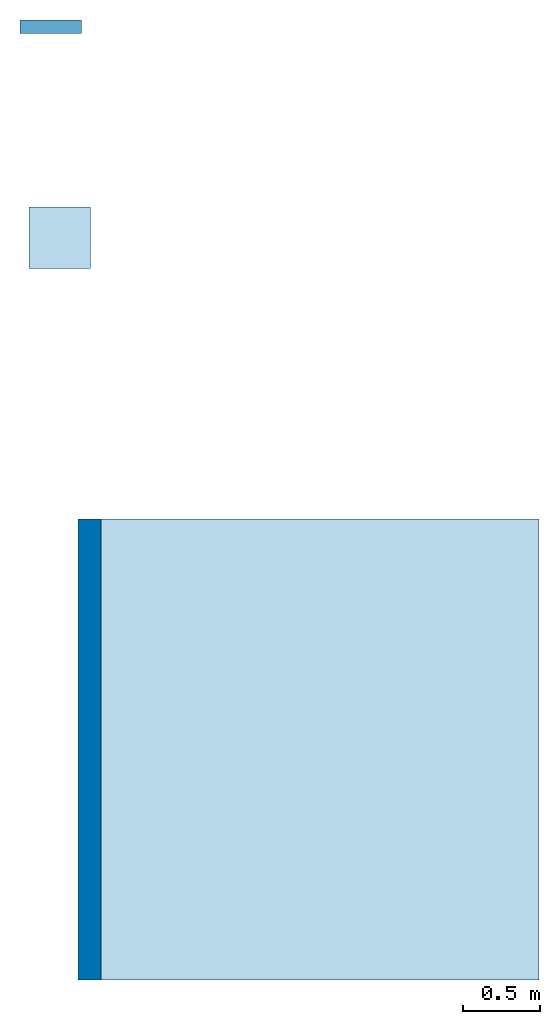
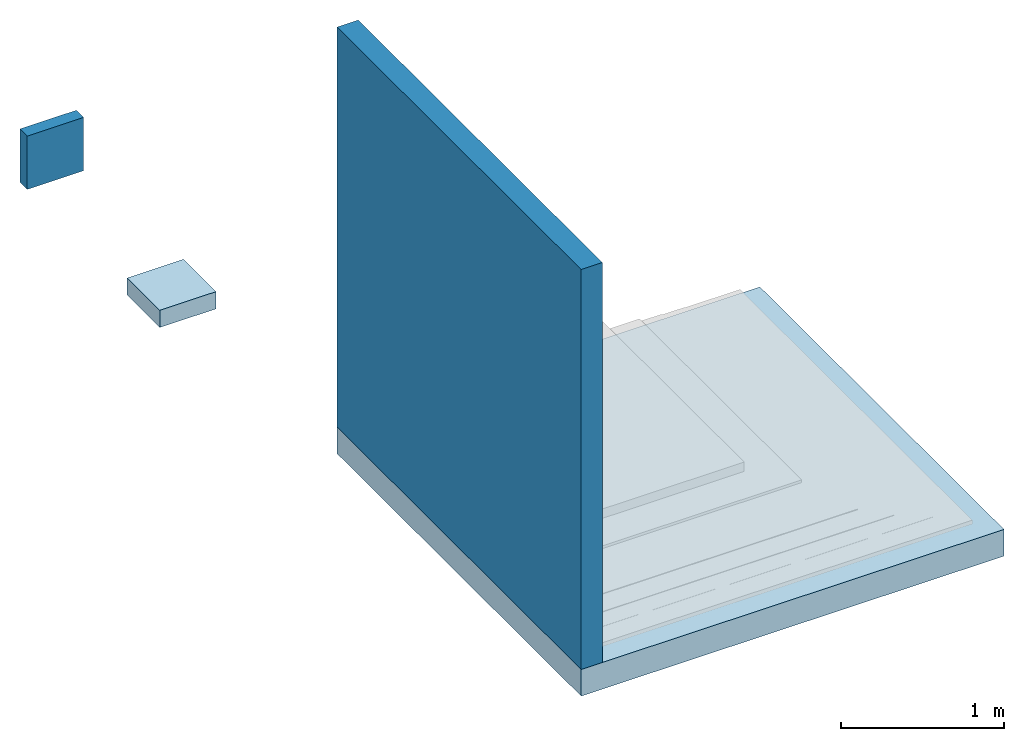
# One storey, part 1 of 2: 2 slabs, 2 walls.
"""IFC2X3 building model written with IfcOpenShell, lengths in metres."""

from ifc_helpers import new_model, entity, si_unit, converted_unit, derived_unit, direction, frame, frame_2d, origin, origin_2d_with_axis, place, context, subcontext, project, spatial, rectangle, extrude, material, layer, layer_set, layer_usage, type_object, element, save


model = new_model("IFC2X3")

# Units and contexts
model_context = context("Model", 3, precision=1e-05, world=origin(), true_north=direction((6.123031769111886e-17, 1.0)))
body_context = subcontext(model_context, "Body", "Model", "MODEL_VIEW")
ifc_project = project(units=[si_unit("LENGTHUNIT", "METRE"), si_unit("AREAUNIT", "SQUARE_METRE"), si_unit("VOLUMEUNIT", "CUBIC_METRE"), converted_unit("PLANEANGLEUNIT", "DEGREE", entity("IfcRatioMeasure", 0.017453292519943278), si_unit("PLANEANGLEUNIT", "RADIAN"), dimensions=[0, 0, 0, 0, 0, 0, 0]), si_unit("MASSUNIT", "GRAM", prefix="KILO"), derived_unit("MASSDENSITYUNIT", [(si_unit("MASSUNIT", "GRAM", prefix="KILO"), 1), (si_unit("LENGTHUNIT", "METRE"), -3)]), derived_unit("IONCONCENTRATIONUNIT", [(si_unit("MASSUNIT", "GRAM", prefix="KILO"), 1), (si_unit("LENGTHUNIT", "METRE"), -3)]), derived_unit("MOMENTOFINERTIAUNIT", [(si_unit("LENGTHUNIT", "METRE"), 4)]), si_unit("TIMEUNIT", "SECOND"), si_unit("FREQUENCYUNIT", "HERTZ"), si_unit("THERMODYNAMICTEMPERATUREUNIT", "DEGREE_CELSIUS"), derived_unit("THERMALTRANSMITTANCEUNIT", [(si_unit("MASSUNIT", "GRAM", prefix="KILO"), 1), (si_unit("THERMODYNAMICTEMPERATUREUNIT", "KELVIN"), -1), (si_unit("TIMEUNIT", "SECOND"), -3)]), derived_unit("THERMALCONDUCTANCEUNIT", [(si_unit("MASSUNIT", "GRAM", prefix="KILO"), 1), (si_unit("THERMODYNAMICTEMPERATUREUNIT", "KELVIN"), -1), (si_unit("TIMEUNIT", "SECOND"), -3), (si_unit("LENGTHUNIT", "METRE"), 1)]), derived_unit("VOLUMETRICFLOWRATEUNIT", [(si_unit("LENGTHUNIT", "METRE"), 3), (si_unit("TIMEUNIT", "SECOND"), -1)]), derived_unit("MASSFLOWRATEUNIT", [(si_unit("MASSUNIT", "GRAM", prefix="KILO"), 1), (si_unit("TIMEUNIT", "SECOND"), -1)]), derived_unit("ROTATIONALFREQUENCYUNIT", [(si_unit("TIMEUNIT", "SECOND"), -1)]), si_unit("ELECTRICCURRENTUNIT", "AMPERE"), si_unit("ELECTRICVOLTAGEUNIT", "VOLT"), si_unit("POWERUNIT", "WATT"), si_unit("FORCEUNIT", "NEWTON", prefix="KILO"), si_unit("ILLUMINANCEUNIT", "LUX"), si_unit("LUMINOUSFLUXUNIT", "LUMEN"), si_unit("LUMINOUSINTENSITYUNIT", "CANDELA"), derived_unit("USERDEFINED", [(si_unit("MASSUNIT", "GRAM", prefix="KILO"), -1), (si_unit("LENGTHUNIT", "METRE"), -2), (si_unit("TIMEUNIT", "SECOND"), 3), (si_unit("LUMINOUSFLUXUNIT", "LUMEN"), 1)]), derived_unit("USERDEFINED", [(si_unit("MASSUNIT", "GRAM", prefix="KILO"), 1), (si_unit("TIMEUNIT", "SECOND"), -3), (si_unit("LENGTHUNIT", "METRE"), 3), (si_unit("ELECTRICCURRENTUNIT", "AMPERE"), -2)]), derived_unit("SOUNDPOWERUNIT", [(si_unit("MASSUNIT", "GRAM", prefix="KILO"), 1), (si_unit("TIMEUNIT", "SECOND"), -3), (si_unit("LENGTHUNIT", "METRE"), 2)]), derived_unit("SOUNDPRESSUREUNIT", [(si_unit("MASSUNIT", "GRAM", prefix="KILO"), 1), (si_unit("LENGTHUNIT", "METRE"), -1), (si_unit("TIMEUNIT", "SECOND"), -2)]), derived_unit("LINEARVELOCITYUNIT", [(si_unit("LENGTHUNIT", "METRE"), 1), (si_unit("TIMEUNIT", "SECOND"), -1)]), si_unit("PRESSUREUNIT", "PASCAL"), derived_unit("USERDEFINED", [(si_unit("MASSUNIT", "GRAM", prefix="KILO"), 1), (si_unit("LENGTHUNIT", "METRE"), -2), (si_unit("TIMEUNIT", "SECOND"), -2)]), derived_unit("LINEARFORCEUNIT", [(si_unit("MASSUNIT", "GRAM", prefix="KILO"), 1), (si_unit("TIMEUNIT", "SECOND"), -2)]), derived_unit("PLANARFORCEUNIT", [(si_unit("MASSUNIT", "GRAM", prefix="KILO"), 1), (si_unit("LENGTHUNIT", "METRE"), -1), (si_unit("TIMEUNIT", "SECOND"), -2)]), derived_unit("SPECIFICHEATCAPACITYUNIT", [(si_unit("THERMODYNAMICTEMPERATUREUNIT", "KELVIN"), -1), (si_unit("LENGTHUNIT", "METRE"), 2), (si_unit("TIMEUNIT", "SECOND"), -2)]), derived_unit("HEATINGVALUEUNIT", [(si_unit("LENGTHUNIT", "METRE"), 2), (si_unit("TIMEUNIT", "SECOND"), -2)]), derived_unit("VAPORPERMEABILITYUNIT", [(si_unit("LENGTHUNIT", "METRE"), -1), (si_unit("TIMEUNIT", "SECOND"), 1)]), derived_unit("DYNAMICVISCOSITYUNIT", [(si_unit("MASSUNIT", "GRAM", prefix="KILO"), 1), (si_unit("TIMEUNIT", "SECOND"), -1), (si_unit("LENGTHUNIT", "METRE"), -1)]), derived_unit("THERMALEXPANSIONCOEFFICIENTUNIT", [(si_unit("THERMODYNAMICTEMPERATUREUNIT", "KELVIN"), -1)]), derived_unit("MODULUSOFELASTICITYUNIT", [(si_unit("MASSUNIT", "GRAM", prefix="KILO"), 1), (si_unit("LENGTHUNIT", "METRE"), -1), (si_unit("TIMEUNIT", "SECOND"), -2)]), derived_unit("ISOTHERMALMOISTURECAPACITYUNIT", [(si_unit("LENGTHUNIT", "METRE"), 3), (si_unit("MASSUNIT", "GRAM", prefix="KILO"), -1)]), derived_unit("MOISTUREDIFFUSIVITYUNIT", [(si_unit("TIMEUNIT", "SECOND"), -1), (si_unit("LENGTHUNIT", "METRE"), 2)])], contexts=[model_context])

# Site, building, storey
site_placement = place(None, origin())
site = spatial("IfcSite", under=ifc_project, at=site_placement, Name="Default", CompositionType="ELEMENT")
building_placement = place(site_placement, origin())
building = spatial("IfcBuilding", under=site, at=building_placement, CompositionType="ELEMENT")
storey_placement = place(building_placement, frame((0.0, 0.0, -0.0025237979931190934)))
storey = spatial("IfcBuildingStorey", under=building, at=storey_placement, Name="ARQ Térreo", CompositionType="ELEMENT", Elevation=-0.0025237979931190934)

# Slabs
ifc_material_1 = material(Name="#concreto")
ifc_layer_1 = layer(ifc_material_1, 0.2)
ifc_layer_set_1 = layer_set([ifc_layer_1], Name="Piso:Piso:LAJE CONCRETO")
ifc_layer_usage_1 = layer_usage(ifc_layer_set_1, "AXIS3", "POSITIVE", 0.0)
slab_type_1 = type_object("IfcSlabType", Name="Piso:Piso:LAJE CONCRETO", PredefinedType="FLOOR", material=ifc_layer_set_1)
slab_1_placement = place(storey_placement, origin())
element("IfcSlab", 1, at=slab_1_placement, inside=storey, type_object=slab_type_1, material=ifc_layer_usage_1, Name="Piso:Piso:LAJE CONCRETO", ObjectType="Piso:Piso:LAJE CONCRETO", PredefinedType="FLOOR", context=body_context, shape_type="SweptSolid", body=[
    extrude(rectangle(XDim=3.0000000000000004, YDim=3.0000000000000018, at=origin_2d_with_axis()), frame((0.9980295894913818, -1.354129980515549, 0.0), z_axis=(0.0, 0.0, -1.0), x_axis=(0.0, 1.0, 0.0)), (0.0, 0.0, 1.0), 0.2),
])
ifc_material_2 = material(Name="#proteção mecânica")
ifc_layer_2 = layer(ifc_material_2, 0.07)
ifc_material_3 = material(Name="#camada amortecedora")
ifc_layer_3 = layer(ifc_material_3, 0.02)
ifc_material_4 = material(Name="# Torodin Extra 4mm - TIPO IV - Classe A")
ifc_layer_4 = layer(ifc_material_4, 0.003999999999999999)
ifc_material_5 = material(Name="# Torodin 4mm - TIPO III - Classe A")
ifc_layer_5 = layer(ifc_material_5, 0.003999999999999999)
ifc_material_6 = material(Name="#Primer Adeflex")
ifc_layer_6 = layer(ifc_material_6, 0.0009999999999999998)
ifc_material_7 = material(Name="#argamassa")
ifc_layer_7 = layer(ifc_material_7, 0.03)
ifc_layer_set_2 = layer_set([ifc_layer_2, ifc_layer_3, ifc_layer_4, ifc_layer_5, ifc_layer_6, ifc_layer_7], Name="Piso:IMPH_T4PP+TEXTRA4PP")
ifc_layer_usage_2 = layer_usage(ifc_layer_set_2, "AXIS3", "POSITIVE", 0.0)
slab_type_2 = type_object("IfcSlabType", Name="Piso:IMPH_T4PP+TEXTRA4PP", PredefinedType="FLOOR", material=ifc_layer_set_2)
slab_2_placement = place(storey_placement, origin())
element("IfcSlab", 2, at=slab_2_placement, inside=storey, type_object=slab_type_2, material=ifc_layer_usage_2, Name="Piso:IMPH_T4PP+TEXTRA4PP", ObjectType="Piso:IMPH_T4PP+TEXTRA4PP", PredefinedType="FLOOR", context=body_context, shape_type="SweptSolid", body=[
    extrude(rectangle(XDim=0.4, YDim=0.4, at=origin_2d_with_axis()), frame((-0.6208408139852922, 1.9726753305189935, 0.0), z_axis=(0.0, 0.0, -1.0), x_axis=(0.0, 1.0, 0.0)), (0.0, 0.0, 1.0), 0.129),
])

# Walls
ifc_layer_8 = layer(ifc_material_1, 0.14999999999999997)
ifc_layer_set_3 = layer_set([ifc_layer_8], Name="Parede básica:Parede básica:Parede Concreto")
ifc_layer_usage_3 = layer_usage(ifc_layer_set_3, "AXIS2", "NEGATIVE", 0.07499999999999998)
wall_type_1 = type_object("IfcWallType", Name="Parede básica:Parede básica:Parede Concreto", PredefinedType="STANDARD", material=ifc_layer_set_3)
wall_1_placement = place(storey_placement, frame((-0.4269704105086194, 0.14587001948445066, 0.0), z_axis=(0.0, 0.0, 1.0), x_axis=(0.0, -1.0, 0.0)))
element("IfcWallStandardCase", 3, at=wall_1_placement, inside=storey, type_object=wall_type_1, material=ifc_layer_usage_3, Name="Parede básica:Parede Concreto", ObjectType="Parede básica:Parede Concreto", context=body_context, shape_type="SweptSolid", body=[
    extrude(rectangle(XDim=2.9999999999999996, YDim=0.15000000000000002, at=frame_2d((1.4999999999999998, 0.0), x_axis=(-1.0, 0.0))), origin(), (0.0, 0.0, 1.0), 2.9999999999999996),
])
ifc_layer_9 = layer(ifc_material_2, 0.07)
ifc_layer_10 = layer(ifc_material_4, 0.003999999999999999)
ifc_layer_11 = layer(ifc_material_5, 0.003999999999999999)
ifc_layer_12 = layer(ifc_material_6, 0.0009999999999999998)
ifc_layer_13 = layer(ifc_material_7, 0.01)
ifc_layer_set_4 = layer_set([ifc_layer_9, ifc_layer_10, ifc_layer_11, ifc_layer_12, ifc_layer_13], Name="Parede básica:IMPV_T4PP+T4EXTRAPP")
ifc_layer_usage_4 = layer_usage(ifc_layer_set_4, "AXIS2", "NEGATIVE", 0.044500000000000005)
wall_type_2 = type_object("IfcWallType", Name="Parede básica:IMPV_T4PP+T4EXTRAPP", PredefinedType="STANDARD", material=ifc_layer_set_4)
wall_2_placement = place(storey_placement, frame((-0.47845796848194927, 3.345870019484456, 0.0), z_axis=(0.0, 0.0, 1.0), x_axis=(-1.0, 0.0, 0.0)))
element("IfcWallStandardCase", 4, at=wall_2_placement, inside=storey, type_object=wall_type_2, material=ifc_layer_usage_4, Name="Parede básica:IMPV_T4PP", ObjectType="Parede básica:IMPV_T4PP", context=body_context, shape_type="SweptSolid", body=[
    extrude(rectangle(XDim=0.3999999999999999, YDim=0.08900000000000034, at=frame_2d((0.19999999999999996, -5.204170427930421e-17), x_axis=(-1.0, 0.0))), origin(), (0.0, 0.0, 1.0), 0.4),
])

save(model, "model.ifc")
